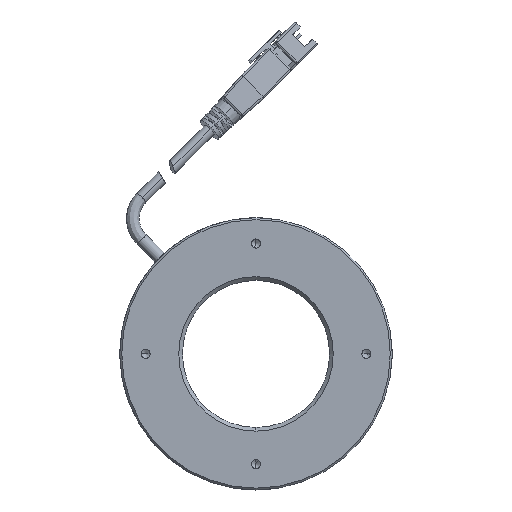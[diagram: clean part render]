
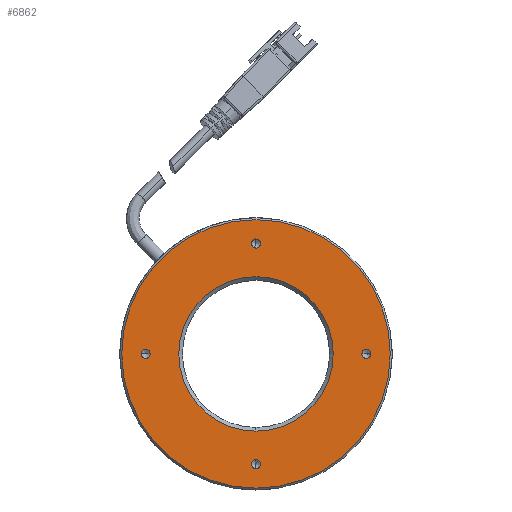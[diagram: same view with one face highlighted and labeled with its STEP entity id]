
A CAD part, front view. The second image highlights one B-rep face of the part: STEP entity #6862.
In plain terms, the highlighted planar face has unit normal (0, -1, 0).
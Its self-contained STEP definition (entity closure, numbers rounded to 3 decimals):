
#48 = DIRECTION ( 'NONE',  ( -1., 0., 0. ) ) ;
#94 = CARTESIAN_POINT ( 'NONE',  ( 0., 0., 0. ) ) ;
#123 = ORIENTED_EDGE ( 'NONE', *, *, #6199, .F. ) ;
#129 = CIRCLE ( 'NONE', #11760, 21. ) ;
#155 = CIRCLE ( 'NONE', #7341, 36.5 ) ;
#330 = CIRCLE ( 'NONE', #10704, 1.25 ) ;
#339 = CARTESIAN_POINT ( 'NONE',  ( -28.75, 0., 0. ) ) ;
#439 = DIRECTION ( 'NONE',  ( 0., -1., 0. ) ) ;
#722 = VERTEX_POINT ( 'NONE', #3938 ) ;
#746 = CARTESIAN_POINT ( 'NONE',  ( 0., 0., 0. ) ) ;
#808 = CARTESIAN_POINT ( 'NONE',  ( 0., 0., 30. ) ) ;
#821 = DIRECTION ( 'NONE',  ( 0., -1., 0. ) ) ;
#867 = EDGE_CURVE ( 'NONE', #4449, #4492, #9980, .T. ) ;
#900 = CARTESIAN_POINT ( 'NONE',  ( -30., 0., 0. ) ) ;
#936 = ORIENTED_EDGE ( 'NONE', *, *, #8174, .F. ) ;
#1051 = DIRECTION ( 'NONE',  ( 0., -1., 0. ) ) ;
#1103 = DIRECTION ( 'NONE',  ( 0., 0., -1. ) ) ;
#1113 = CARTESIAN_POINT ( 'NONE',  ( 0., 0., 31.25 ) ) ;
#1204 = EDGE_LOOP ( 'NONE', ( #9814, #5165 ) ) ;
#1266 = EDGE_CURVE ( 'NONE', #5839, #11152, #1433, .T. ) ;
#1345 = DIRECTION ( 'NONE',  ( 0., 0., 1. ) ) ;
#1433 = CIRCLE ( 'NONE', #1652, 1.25 ) ;
#1480 = VERTEX_POINT ( 'NONE', #1910 ) ;
#1652 = AXIS2_PLACEMENT_3D ( 'NONE', #808, #4850, #12894 ) ;
#1910 = CARTESIAN_POINT ( 'NONE',  ( 31.25, 0., 0. ) ) ;
#2112 = VERTEX_POINT ( 'NONE', #7384 ) ;
#2406 = ORIENTED_EDGE ( 'NONE', *, *, #5748, .T. ) ;
#2514 = FACE_BOUND ( 'NONE', #3509, .T. ) ;
#2579 = PLANE ( 'NONE',  #10192 ) ;
#2674 = CIRCLE ( 'NONE', #10056, 1.25 ) ;
#2738 = EDGE_CURVE ( 'NONE', #11152, #5839, #2674, .T. ) ;
#2769 = DIRECTION ( 'NONE',  ( 0., 0., -1. ) ) ;
#2815 = CIRCLE ( 'NONE', #7688, 1.25 ) ;
#2913 = CARTESIAN_POINT ( 'NONE',  ( 0., 0., -21. ) ) ;
#3179 = ORIENTED_EDGE ( 'NONE', *, *, #11478, .F. ) ;
#3222 = VERTEX_POINT ( 'NONE', #4612 ) ;
#3258 = ORIENTED_EDGE ( 'NONE', *, *, #12995, .T. ) ;
#3262 = CARTESIAN_POINT ( 'NONE',  ( 0., 0., -30. ) ) ;
#3263 = DIRECTION ( 'NONE',  ( 0., 0., 1. ) ) ;
#3470 = DIRECTION ( 'NONE',  ( 0., -1., 0. ) ) ;
#3509 = EDGE_LOOP ( 'NONE', ( #936, #7514 ) ) ;
#3513 = CIRCLE ( 'NONE', #6890, 1.25 ) ;
#3567 = CIRCLE ( 'NONE', #3985, 36.5 ) ;
#3580 = CARTESIAN_POINT ( 'NONE',  ( 0., 0., -28.75 ) ) ;
#3635 = EDGE_CURVE ( 'NONE', #3222, #5709, #4381, .T. ) ;
#3938 = CARTESIAN_POINT ( 'NONE',  ( 0., 0., -36.5 ) ) ;
#3974 = CIRCLE ( 'NONE', #6080, 1.25 ) ;
#3985 = AXIS2_PLACEMENT_3D ( 'NONE', #94, #5123, #8293 ) ;
#4018 = DIRECTION ( 'NONE',  ( 1., 0., 0. ) ) ;
#4052 = DIRECTION ( 'NONE',  ( 0., -1., 0. ) ) ;
#4235 = VERTEX_POINT ( 'NONE', #8010 ) ;
#4381 = CIRCLE ( 'NONE', #7767, 21. ) ;
#4449 = VERTEX_POINT ( 'NONE', #3580 ) ;
#4468 = CARTESIAN_POINT ( 'NONE',  ( 0., 0., 0. ) ) ;
#4492 = VERTEX_POINT ( 'NONE', #5355 ) ;
#4612 = CARTESIAN_POINT ( 'NONE',  ( 0., 0., 21. ) ) ;
#4636 = FACE_BOUND ( 'NONE', #9044, .T. ) ;
#4680 = EDGE_CURVE ( 'NONE', #4235, #1480, #3974, .T. ) ;
#4850 = DIRECTION ( 'NONE',  ( 0., -1., 0. ) ) ;
#5123 = DIRECTION ( 'NONE',  ( 0., -1., 0. ) ) ;
#5165 = ORIENTED_EDGE ( 'NONE', *, *, #3635, .F. ) ;
#5240 = CARTESIAN_POINT ( 'NONE',  ( -31.25, 0., 0. ) ) ;
#5355 = CARTESIAN_POINT ( 'NONE',  ( 0., 0., -31.25 ) ) ;
#5709 = VERTEX_POINT ( 'NONE', #2913 ) ;
#5748 = EDGE_CURVE ( 'NONE', #722, #2112, #155, .T. ) ;
#5839 = VERTEX_POINT ( 'NONE', #11367 ) ;
#6080 = AXIS2_PLACEMENT_3D ( 'NONE', #9057, #12140, #48 ) ;
#6199 = EDGE_CURVE ( 'NONE', #1480, #4235, #2815, .T. ) ;
#6541 = FACE_BOUND ( 'NONE', #10118, .T. ) ;
#6597 = CARTESIAN_POINT ( 'NONE',  ( 0., 0., 0. ) ) ;
#6829 = DIRECTION ( 'NONE',  ( 0., 0., -1. ) ) ;
#6862 = ADVANCED_FACE ( 'NONE', ( #4636, #6541, #2514, #12875, #11633, #10585 ), #2579, .T. ) ;
#6890 = AXIS2_PLACEMENT_3D ( 'NONE', #3262, #3470, #1345 ) ;
#7341 = AXIS2_PLACEMENT_3D ( 'NONE', #11100, #1051, #10237 ) ;
#7384 = CARTESIAN_POINT ( 'NONE',  ( 0., 0., 36.5 ) ) ;
#7514 = ORIENTED_EDGE ( 'NONE', *, *, #10333, .F. ) ;
#7585 = DIRECTION ( 'NONE',  ( -1., 0., 0. ) ) ;
#7666 = DIRECTION ( 'NONE',  ( 0., -1., 0. ) ) ;
#7688 = AXIS2_PLACEMENT_3D ( 'NONE', #10492, #439, #7585 ) ;
#7706 = DIRECTION ( 'NONE',  ( 0., 0., -1. ) ) ;
#7767 = AXIS2_PLACEMENT_3D ( 'NONE', #4468, #8440, #7706 ) ;
#7957 = VERTEX_POINT ( 'NONE', #5240 ) ;
#8010 = CARTESIAN_POINT ( 'NONE',  ( 28.75, 0., 0. ) ) ;
#8174 = EDGE_CURVE ( 'NONE', #11807, #7957, #330, .T. ) ;
#8187 = ORIENTED_EDGE ( 'NONE', *, *, #4680, .F. ) ;
#8252 = ORIENTED_EDGE ( 'NONE', *, *, #1266, .F. ) ;
#8293 = DIRECTION ( 'NONE',  ( 0., 0., -1. ) ) ;
#8331 = AXIS2_PLACEMENT_3D ( 'NONE', #9883, #821, #8889 ) ;
#8440 = DIRECTION ( 'NONE',  ( 0., -1., 0. ) ) ;
#8458 = CARTESIAN_POINT ( 'NONE',  ( 0., 0., 30. ) ) ;
#8885 = EDGE_CURVE ( 'NONE', #5709, #3222, #129, .T. ) ;
#8889 = DIRECTION ( 'NONE',  ( 1., 0., 0. ) ) ;
#9044 = EDGE_LOOP ( 'NONE', ( #8187, #123 ) ) ;
#9057 = CARTESIAN_POINT ( 'NONE',  ( 30., 0., 0. ) ) ;
#9076 = EDGE_LOOP ( 'NONE', ( #3258, #2406 ) ) ;
#9529 = ORIENTED_EDGE ( 'NONE', *, *, #867, .F. ) ;
#9814 = ORIENTED_EDGE ( 'NONE', *, *, #8885, .F. ) ;
#9883 = CARTESIAN_POINT ( 'NONE',  ( -30., 0., 0. ) ) ;
#9980 = CIRCLE ( 'NONE', #11670, 1.25 ) ;
#10056 = AXIS2_PLACEMENT_3D ( 'NONE', #8458, #12340, #1103 ) ;
#10118 = EDGE_LOOP ( 'NONE', ( #9529, #3179 ) ) ;
#10154 = CARTESIAN_POINT ( 'NONE',  ( 0., 0., -30. ) ) ;
#10192 = AXIS2_PLACEMENT_3D ( 'NONE', #6597, #7666, #2769 ) ;
#10237 = DIRECTION ( 'NONE',  ( 0., 0., -1. ) ) ;
#10333 = EDGE_CURVE ( 'NONE', #7957, #11807, #12770, .T. ) ;
#10492 = CARTESIAN_POINT ( 'NONE',  ( 30., 0., 0. ) ) ;
#10585 = FACE_BOUND ( 'NONE', #1204, .T. ) ;
#10704 = AXIS2_PLACEMENT_3D ( 'NONE', #900, #12070, #4018 ) ;
#11100 = CARTESIAN_POINT ( 'NONE',  ( 0., 0., 0. ) ) ;
#11134 = ORIENTED_EDGE ( 'NONE', *, *, #2738, .F. ) ;
#11152 = VERTEX_POINT ( 'NONE', #1113 ) ;
#11367 = CARTESIAN_POINT ( 'NONE',  ( 0., 0., 28.75 ) ) ;
#11478 = EDGE_CURVE ( 'NONE', #4492, #4449, #3513, .T. ) ;
#11633 = FACE_OUTER_BOUND ( 'NONE', #9076, .T. ) ;
#11670 = AXIS2_PLACEMENT_3D ( 'NONE', #10154, #12058, #3263 ) ;
#11760 = AXIS2_PLACEMENT_3D ( 'NONE', #746, #4052, #6829 ) ;
#11807 = VERTEX_POINT ( 'NONE', #339 ) ;
#12058 = DIRECTION ( 'NONE',  ( 0., -1., 0. ) ) ;
#12070 = DIRECTION ( 'NONE',  ( 0., -1., 0. ) ) ;
#12140 = DIRECTION ( 'NONE',  ( 0., -1., 0. ) ) ;
#12340 = DIRECTION ( 'NONE',  ( 0., -1., 0. ) ) ;
#12770 = CIRCLE ( 'NONE', #8331, 1.25 ) ;
#12875 = FACE_BOUND ( 'NONE', #12887, .T. ) ;
#12887 = EDGE_LOOP ( 'NONE', ( #8252, #11134 ) ) ;
#12894 = DIRECTION ( 'NONE',  ( 0., 0., -1. ) ) ;
#12995 = EDGE_CURVE ( 'NONE', #2112, #722, #3567, .T. ) ;
